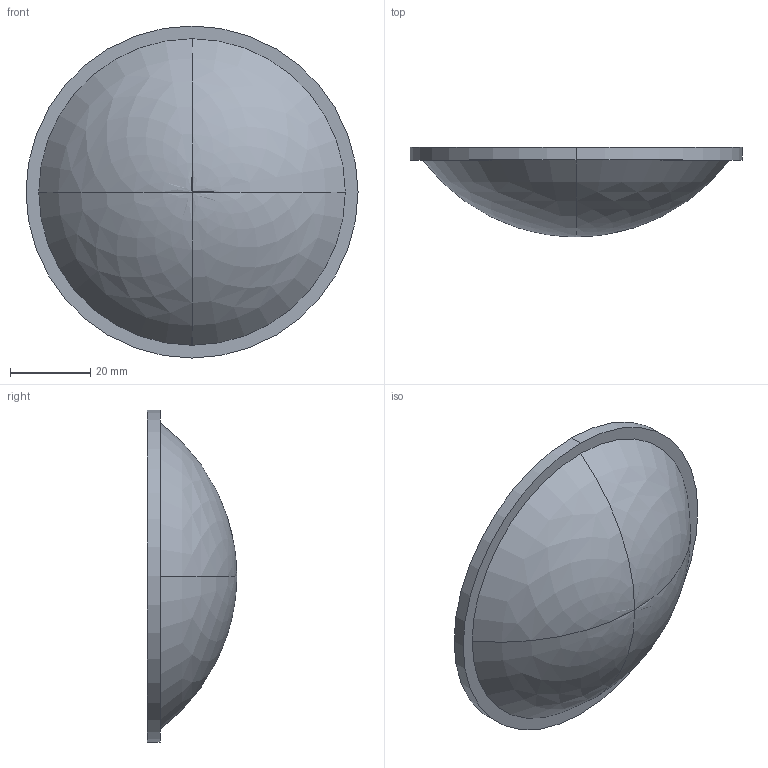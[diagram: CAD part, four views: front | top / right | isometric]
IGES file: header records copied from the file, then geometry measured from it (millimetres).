
Start section: 3D InterOp IGES (Version 21 0 3), Spatial Corp. Copyright (c) 1999-2007.
Global section: file name: CSR Radar Eye Lens - 20140513.igs; native system: Spatial Corp.; preprocessor: 3D InterOp GENERIC/IGES 3.0; author: Noname; organization: Noname; date: 20140514.210651; units: inch
Bounding box: 82.55 x 22.23 x 82.55 mm (x, y, z)
Surface area: 13752.5 mm2 (no closed solid volume)
Topology: 0 solids, 0 shells, 14 faces, 60 edges, 52 vertices
Faces by surface type: revolution 12, extrusion 2
